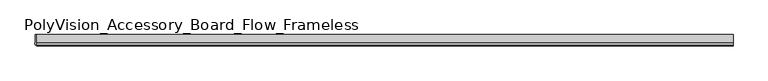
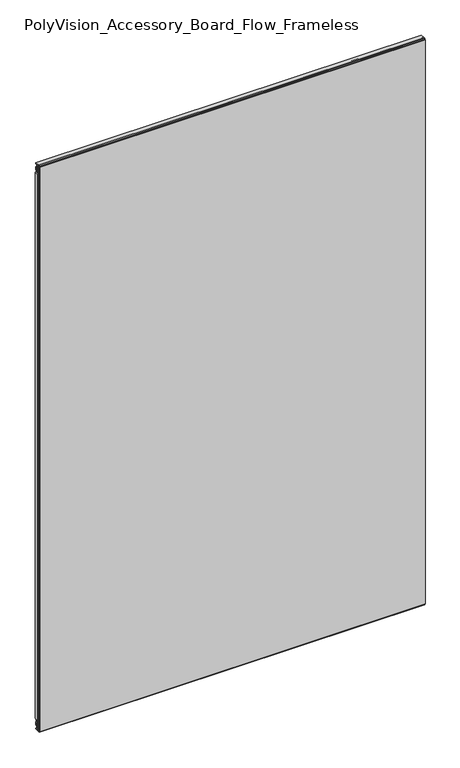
"""IFC4 building model written with IfcOpenShell, lengths in millimetres: furniture geometry, PolyVision_Accessory_Board_Flow_Frameless : 47W x 72H (1185 W x 1830 H)."""

import ifcopenshell
import ifcopenshell.guid

model = None  # the IFC model being written
_history = None  # IfcOwnerHistory: only IFC2X3 demands one
_inside = {}  # id of a spatial element -> (the spatial element, [elements in it])
_under = {}  # id of a project, library or spatial element -> (it, [spatial elements below it])
_declared = {}  # id of a project -> (the project, [libraries it declares])
_typed = {}  # id of a type object -> (the type object, [elements of that type])
_made_of = {}  # id of a material, layer set ... -> (it, [elements and type objects made of it])


def new_model(schema):
    """Start an empty IFC model of exactly this schema.

    Asked for "IFC4X3", IfcOpenShell would pick the latest addendum, in which some entities
    have other attributes; the version numbers below select the first issue.
    IFC2X3 requires an IfcOwnerHistory on every rooted entity: one is made here for all.
    """
    global model, _history
    if schema == "IFC4X3":
        model = ifcopenshell.file(schema_version=(4, 3, 0, 0))
    else:
        model = ifcopenshell.file(schema=schema)
    _inside.clear()
    _under.clear()
    _declared.clear()
    _typed.clear()
    _made_of.clear()
    _history = None
    if model.schema == "IFC2X3":
        org = make("IfcOrganization", Name="unknown")
        user = make(
            "IfcPersonAndOrganization",
            ThePerson=make("IfcPerson", FamilyName="unknown"),
            TheOrganization=org,
        )
        app = make(
            "IfcApplication",
            ApplicationDeveloper=org,
            Version="unknown",
            ApplicationFullName="unknown",
            ApplicationIdentifier="unknown",
        )
        _history = make(
            "IfcOwnerHistory",
            OwningUser=user,
            OwningApplication=app,
            ChangeAction="ADDED",
            CreationDate=0,
        )
    return model


def make(cls, **values):
    """One entity of the class cls with the attributes given. An attribute that is None is left unset."""
    return model.create_entity(
        cls, **{name: value for name, value in values.items() if value is not None}
    )


def rooted(cls, **values):
    """An entity with a GlobalId (a new one), such as an element, a storey or a relation."""
    return make(cls, GlobalId=ifcopenshell.guid.new(), OwnerHistory=_history, **values)


def si_unit(unit_type, name, prefix=None):
    """IfcSIUnit, for example si_unit("LENGTHUNIT", "METRE", prefix="MILLI")."""
    return make("IfcSIUnit", UnitType=unit_type, Prefix=prefix, Name=name)


def assignment(units):
    """IfcUnitAssignment: the units of a project."""
    return None if units is None else make("IfcUnitAssignment", Units=units)


def point(xyz):
    """IfcCartesianPoint."""
    return None if xyz is None else make("IfcCartesianPoint", Coordinates=xyz)


def direction(xyz):
    """IfcDirection."""
    return None if xyz is None else make("IfcDirection", DirectionRatios=xyz)


def frame(location, z_axis=None, x_axis=None):
    """IfcAxis2Placement3D, a coordinate frame: its origin and axes. An axis left out is left unset."""
    return make(
        "IfcAxis2Placement3D",
        Location=point(location),
        Axis=direction(z_axis),
        RefDirection=direction(x_axis),
    )


def frame_2d(location, x_axis=None):
    """IfcAxis2Placement2D, a coordinate frame in the plane: its origin and x axis."""
    return make(
        "IfcAxis2Placement2D", Location=point(location), RefDirection=direction(x_axis)
    )


def origin():
    """The frame at (0, 0, 0) with its axes left unset."""
    return frame((0.0, 0.0, 0.0))


def place(relative_to, where):
    """IfcLocalPlacement: puts the frame where relative to a parent placement (None: the world)."""
    return make(
        "IfcLocalPlacement", PlacementRelTo=relative_to, RelativePlacement=where
    )


def context(
    kind, dimensions, precision=None, world=None, true_north=None, identifier=None
):
    """IfcGeometricRepresentationContext, for example the 3D "Model" context."""
    return make(
        "IfcGeometricRepresentationContext",
        ContextIdentifier=identifier,
        ContextType=kind,
        CoordinateSpaceDimension=dimensions,
        Precision=precision,
        WorldCoordinateSystem=world,
        TrueNorth=true_north,
    )


def project(units=None, contexts=None):
    """IfcProject with its units and contexts."""
    return rooted(
        "IfcProject",
        Name="project",
        RepresentationContexts=contexts,
        UnitsInContext=assignment(units),
    )


def spatial(cls, under=None, at=None, **own):
    """A site, building, storey or space (cls), placed at a placement, below another one or the project."""
    s = rooted(cls, ObjectPlacement=at, **own)
    if under is not None:
        _under.setdefault(under.id(), (under, []))[1].append(s)
    return s


def polyline(points):
    """IfcPolyline through the points."""
    return make("IfcPolyline", Points=[point(p) for p in points])


def circle_curve(where, radius):
    """IfcCircle in the frame where."""
    return make("IfcCircle", Position=where, Radius=radius)


def trimmed(basis, trim1, trim2, sense, master):
    """IfcTrimmedCurve: the piece of a basis curve between two trims."""
    return make(
        "IfcTrimmedCurve",
        BasisCurve=basis,
        Trim1=trim1,
        Trim2=trim2,
        SenseAgreement=sense,
        MasterRepresentation=master,
    )


def segment(curve, same_sense, transition):
    """IfcCompositeCurveSegment."""
    return make(
        "IfcCompositeCurveSegment",
        Transition=transition,
        SameSense=same_sense,
        ParentCurve=curve,
    )


def composite_curve(segments, self_intersect=None):
    """IfcCompositeCurve: segments joined end to end."""
    return make("IfcCompositeCurve", Segments=segments, SelfIntersect=self_intersect)


def outline(outer, holes=None, kind="AREA"):
    """IfcArbitraryClosedProfileDef: a profile drawn as a closed curve; with holes, ...WithVoids."""
    if holes is None:
        return make("IfcArbitraryClosedProfileDef", ProfileType=kind, OuterCurve=outer)
    return make(
        "IfcArbitraryProfileDefWithVoids",
        ProfileType=kind,
        OuterCurve=outer,
        InnerCurves=holes,
    )


def extrude(swept, where, along, depth):
    """IfcExtrudedAreaSolid: the profile swept, set in the frame where, extruded along a direction by depth."""
    return make(
        "IfcExtrudedAreaSolid",
        SweptArea=swept,
        Position=where,
        ExtrudedDirection=direction(along),
        Depth=depth,
    )


def shape(context_of_items, identifier, shape_type, items):
    """IfcShapeRepresentation: the items that make up one representation, for example the "Body"."""
    return make(
        "IfcShapeRepresentation",
        ContextOfItems=context_of_items,
        RepresentationIdentifier=identifier,
        RepresentationType=shape_type,
        Items=items,
    )


def source(mapping_origin, context_of_items, identifier, shape_type, items):
    """IfcRepresentationMap: a shape defined once, which mapped items show again and again."""
    return make(
        "IfcRepresentationMap",
        MappingOrigin=mapping_origin,
        MappedRepresentation=shape(context_of_items, identifier, shape_type, items),
    )


def transform(
    local_origin,
    x_axis=None,
    y_axis=None,
    z_axis=None,
    scale=None,
    scale2=None,
    scale3=None,
    uniform=True,
):
    """IfcCartesianTransformationOperator3D, or its non-uniform kind. x_axis, y_axis, z_axis: its Axis1, 2, 3."""
    if uniform:
        return make(
            "IfcCartesianTransformationOperator3D",
            Axis1=direction(x_axis),
            Axis2=direction(y_axis),
            LocalOrigin=point(local_origin),
            Scale=scale,
            Axis3=direction(z_axis),
        )
    return make(
        "IfcCartesianTransformationOperator3DnonUniform",
        Axis1=direction(x_axis),
        Axis2=direction(y_axis),
        LocalOrigin=point(local_origin),
        Scale=scale,
        Axis3=direction(z_axis),
        Scale2=scale2,
        Scale3=scale3,
    )


def mapped(mapping_source, mapping_target):
    """IfcMappedItem: shows the shape of a source again, moved by a transform."""
    return make(
        "IfcMappedItem", MappingSource=mapping_source, MappingTarget=mapping_target
    )


def made_of(thing, what):
    """Note that an element or type object is made of a material, layer set ...; save() writes the relation."""
    if what is not None:
        _made_of.setdefault(what.id(), (what, []))[1].append(thing)
    return thing


def element(
    cls,
    number,
    at=None,
    inside=None,
    cuts=None,
    type_object=None,
    material=None,
    context=None,
    identifier="Body",
    shape_type=None,
    held_by="IfcProductDefinitionShape",
    body=None,
    shapes=None,
    **own,
):
    """One element of the class cls, such as IfcWall. Its Tag is "e" and its number.

    at: its placement. inside: the storey or other place that contains it. cuts: it is an
    opening in that element (IfcRelVoidsElement). A single representation is given by context,
    identifier, shape_type and body (its items); several are given by shapes. held_by: the class
    of the entity that holds the representations. save() writes the other relations.
    """
    e = rooted(cls, Tag="e%d" % number, ObjectPlacement=at, **own)
    if body is not None:
        shapes = [shape(context, identifier, shape_type, body)]
    if shapes is not None:
        e.Representation = make(held_by, Representations=shapes)
    if inside is not None:
        _inside.setdefault(inside.id(), (inside, []))[1].append(e)
    if cuts is not None:
        rooted(
            "IfcRelVoidsElement", RelatingBuildingElement=cuts, RelatedOpeningElement=e
        )
    if type_object is not None:
        _typed.setdefault(type_object.id(), (type_object, []))[1].append(e)
    return made_of(e, material)


def aggregate(whole, parts):
    """IfcRelAggregates: a whole, such as a stair, and the parts it consists of."""
    return rooted("IfcRelAggregates", RelatingObject=whole, RelatedObjects=parts)


def save(model, path):
    """Write the relations noted so far, then the file.

    IfcRelAggregates (storeys below a building ...), IfcRelContainedInSpatialStructure (elements
    in a storey), IfcRelDefinesByType, IfcRelAssociatesMaterial and IfcRelDeclares: one each for
    every whole, place, type object, material and project.
    """
    for whole, parts in _under.values():
        aggregate(whole, parts)
    for where, things in _inside.values():
        rooted(
            "IfcRelContainedInSpatialStructure",
            RelatedElements=things,
            RelatingStructure=where,
        )
    for kind, things in _typed.values():
        rooted("IfcRelDefinesByType", RelatedObjects=things, RelatingType=kind)
    for what, things in _made_of.values():
        rooted("IfcRelAssociatesMaterial", RelatedObjects=things, RelatingMaterial=what)
    for by, libraries in _declared.values():
        rooted("IfcRelDeclares", RelatingContext=by, RelatedDefinitions=libraries)
    model.write(path)


def polyvision_accessory_board_flow_frameless_ff3bc2d3(model_context):
    return source(origin(), model_context, "Body", "SweptSolid", [
        extrude(outline(polyline([(-2.1773004, 1827.6977202), (-2.1773004, 1826.8340763), (11.9065147, 1826.8340763), (11.9065147, 1824.149308), (7.6861579, 1824.149308), (7.6861579, 1817.1597246), (11.9065147, 1814.0934559), (11.9065147, 1804.1500962), (8.0075268, 1801.3173157), (7.7813476, 1800.4732034), (9.5131033, 1798.0), (7.5873908, 1798.0), (6.1707503, 1800.0231723), (6.1707503, 1801.7730492), (10.4011044, 1804.8465813), (10.4011044, 1813.2889188), (6.1707503, 1816.3624509), (6.1707503, 1823.2252503), (5.2024973, 1823.2252503), (4.2308366, 1824.3425727), (3.1736041, 1823.2853402), (2.1319224, 1824.3270218), (1.2210895, 1823.2415334), (0.4403969, 1824.2407744), (-0.5343781, 1823.2659994), (-1.3255269, 1823.2659994), (-1.3255269, 1824.7318758), (-2.1773004, 1824.7318758), (-2.1773004, 1823.8660166), (-5.4323759, 1824.6775981), (-5.4323759, 1826.8964971), (-2.1773004, 1827.6977202)])), frame((-587.0671964, 0.0, 0.0), z_axis=(1.0, 0.0, 0.0), x_axis=(0.0, 1.0, 0.0)), (0.0, 0.0, 1.0), 1174.1343929),
        extrude(outline(polyline([(-2.1773004, 3.0522798), (-5.4323759, 3.8535029), (-5.4323759, 6.0724019), (-2.1773004, 6.8839834), (-2.1773004, 6.0181242), (-1.3255269, 6.0181242), (-1.3255269, 7.4840006), (-0.5343781, 7.4840006), (0.4403969, 6.5092256), (1.2210895, 7.5084666), (2.1319224, 6.4229782), (3.1736041, 7.4646598), (4.2308366, 6.4074273), (5.2024973, 7.5247497), (6.1707503, 7.5247497), (6.1707503, 14.3875491), (10.4011044, 17.4610812), (10.4011044, 25.9034187), (6.1707503, 28.9769508), (6.1707503, 30.7268277), (11.9065147, 38.9183482), (11.9065147, 36.1681457), (7.7813476, 30.2767966), (8.0075268, 29.4326843), (11.9065147, 26.5999038), (11.9065147, 16.6565441), (7.6861579, 13.5902754), (7.6861579, 6.600692), (11.9065147, 6.600692), (11.9065147, 3.9159237), (-2.1773004, 3.9159237), (-2.1773004, 3.0522798)])), frame((-587.0671964, 0.0, 0.0), z_axis=(1.0, 0.0, 0.0), x_axis=(0.0, 1.0, 0.0)), (0.0, 0.0, 1.0), 1174.1343929),
        extrude(outline(polyline([(587.0671964, -6.2220176), (587.0671964, -7.0048301), (-587.0671964, -7.0048301), (-587.0671964, -6.2220176), (587.0671964, -6.2220176)])), frame((0.0, 0.0, 7.0), z_axis=(0.0, 0.0, 1.0), x_axis=(1.0, 0.0, 0.0)), (0.0, 0.0, 1.0), 1817.0),
        extrude(outline(polyline([(585.0671964, 5.9853098), (585.0671964, 5.2024973), (-585.0671964, 5.2024973), (-585.0671964, 5.9853098), (585.0671964, 5.9853098)])), frame((0.0, 0.0, 7.0), z_axis=(0.0, 0.0, 1.0), x_axis=(1.0, 0.0, 0.0)), (0.0, 0.0, 1.0), 1817.0),
        extrude(outline(composite_curve([segment(polyline([(-587.178125, 11.9065147), (-587.178125, 7.7013244), (-580.1500518, 7.7013244), (-577.1500518, 11.9013244), (-567.1061982, 11.9013244), (-563.9709693, 7.5120041), (-557.778125, 11.9013244), (-556.491294, 11.9013244)]), True, "CONTINUOUS"), segment(trimmed(circle_curve(frame_2d((-556.491294, 11.4060617)), 0.4952627), [point((-556.491294, 11.9013244))], [point((-556.2049054, 11.0019991))], False, "CARTESIAN"), True, "CONTINUOUS"), segment(polyline([(-556.2049054, 11.0019991), (-563.022318, 6.1700016), (-564.8557516, 6.1700016), (-567.878125, 10.4013244), (-576.378125, 10.4013244), (-579.329448, 6.2694723), (-585.9521081, 6.2694723), (-586.3942854, 5.1112467), (-587.5676821, 4.2013244), (-586.278125, 3.2013244), (-587.5819668, 2.1902472), (-586.278125, 1.2679911), (-587.6054758, 0.3291062), (-587.7708901, -1.6777781)]), True, "CONTINUOUS"), segment(trimmed(circle_curve(frame_2d((-587.9352478, -2.1614381)), 0.5108233), [point((-587.7708901, -1.6777781))], [point((-587.4519342, -2.3268115))], False, "CARTESIAN"), True, "CONTINUOUS"), segment(polyline([(-587.4519342, -2.3268115), (-587.7207772, -3.1125214)]), True, "CONTINUOUS"), segment(trimmed(circle_curve(frame_2d((-588.4335511, -3.6561181)), 0.8964062), [point((-587.7207772, -3.1125214))], [point((-587.5854196, -3.9463196))], False, "CARTESIAN"), True, "CONTINUOUS"), segment(polyline([(-587.5854196, -3.9463196), (-588.0823661, -5.3986756), (-589.878125, -5.3986756), (-590.2493178, -3.929291)]), True, "CONTINUOUS"), segment(trimmed(circle_curve(frame_2d((-589.5575806, -3.7545459)), 0.7134678), [point((-590.2493178, -3.929291))], [point((-590.0201742, -3.2113669))], False, "CARTESIAN"), True, "CONTINUOUS"), segment(polyline([(-590.0201742, -3.2113669), (-590.2493178, -2.304291)]), True, "CONTINUOUS"), segment(trimmed(circle_curve(frame_2d((-589.7175534, -2.1699579)), 0.5484695), [point((-590.2493178, -2.304291))], [point((-589.878125, -1.6455195))], False, "CARTESIAN"), True, "CONTINUOUS"), segment(polyline([(-589.878125, -1.6455195), (-589.878125, 11.9065147), (-587.178125, 11.9065147)]), True, "CONTINUOUS")], self_intersect=False)), frame((0.0, 0.0, 39.0), z_axis=(0.0, 0.0, 1.0), x_axis=(1.0, 0.0, 0.0)), (0.0, 0.0, 1.0), 1759.0),
        extrude(outline(polyline([(585.0671964, 5.2024973), (585.0671964, 0.2355242), (575.0671964, 0.2355242), (575.0671964, -2.1351563), (587.0671964, -2.1351563), (587.0671964, -5.7140707), (-587.0671964, -5.7140707), (-587.0671964, -2.1351563), (-575.0671964, -2.1351563), (-575.0671964, 0.2355242), (-585.0671964, 0.2355242), (-585.0671964, 5.2024973), (585.0671964, 5.2024973)])), frame((0.0, 0.0, 7.0), z_axis=(0.0, 0.0, 1.0), x_axis=(1.0, 0.0, 0.0)), (0.0, 0.0, 1.0), 1817.0),
    ])


if __name__ == "__main__":
    model = new_model("IFC4")
    model_context = context("Model", 3, world=origin())
    ifc_project = project(units=[si_unit("LENGTHUNIT", "METRE", prefix="MILLI")], contexts=[model_context])
    site = spatial("IfcSite", under=ifc_project)
    building = spatial("IfcBuilding", under=site)
    placement = place(None, origin())
    polyvision_accessory_board_flow_frameless_shape = polyvision_accessory_board_flow_frameless_ff3bc2d3(model_context)
    element("IfcFurniture", 1, ObjectType="PolyVision_Accessory_Board_Flow_Frameless : 47W x 72H (1185 W x 1830 H)", at=placement, inside=building, context=model_context, shape_type="MappedRepresentation", body=[
        mapped(polyvision_accessory_board_flow_frameless_shape, transform((0.0, 0.0, 0.0), x_axis=(1.0, 0.0, 0.0), y_axis=(0.0, 1.0, 0.0), z_axis=(0.0, 0.0, 1.0))),
    ])
    save(model, "model.ifc")
